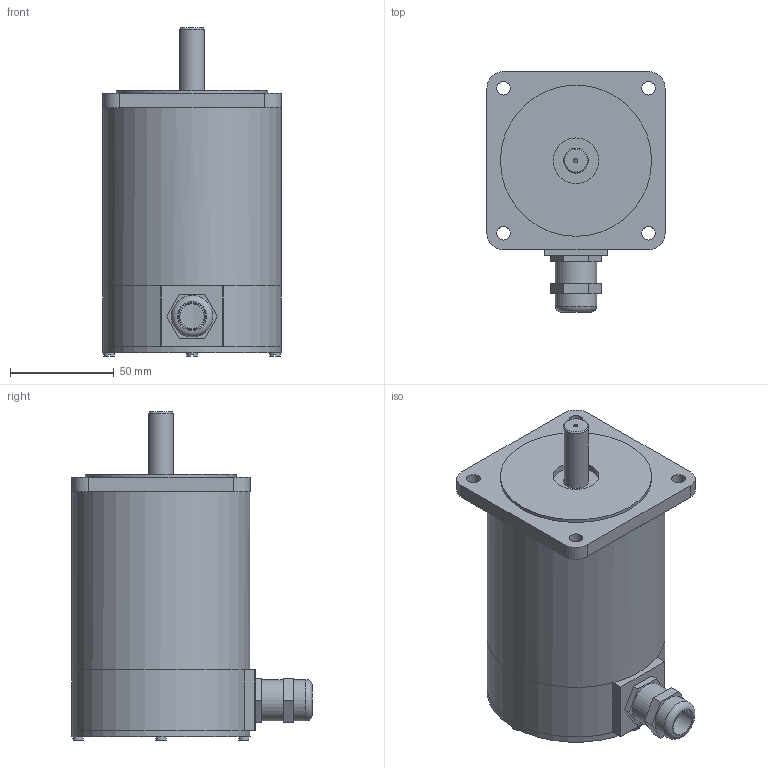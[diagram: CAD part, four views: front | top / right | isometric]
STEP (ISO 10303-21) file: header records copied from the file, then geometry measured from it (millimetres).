
FILE_DESCRIPTION((''),'2;1');
FILE_NAME('C:\Users\Reinhard\Documents\Inventor\Testschrittmotor\SM88\SM88.2-KV.stp','2012-11-12T20:27:23',('Reinhard'),(''),'Autodesk Inventor 2012','Autodesk Inventor 2012','');
FILE_SCHEMA(('CONFIG_CONTROL_DESIGN'));
Length unit declared in the file: millimetre
Products named in the file (1): SM88
Bounding box: 86 x 115.99 x 158.4 mm (x, y, z)
Volume: 159482.3 mm3; surface area: 95609.6 mm2
Topology: 2 solids, 2 shells, 105 faces, 233 edges, 148 vertices
Faces by surface type: plane 64, cylinder 35, cone 3, sphere 2, torus 1
Full cylindrical faces by diameter (mm): 2 x1, 5 x4, 6.6 x4, 12 x2, 13 x2, 15 x1, 18.376 x1, 20 x3, 22 x1, 73 x1, 78 x2, 82 x1, 86 x2
Entity records: 2775 total; most frequent: CARTESIAN_POINT 496, DIRECTION 491, ORIENTED_EDGE 390, EDGE_CURVE 195, AXIS2_PLACEMENT_3D 194, EDGE_LOOP 162, VERTEX_POINT 139, FACE_OUTER_BOUND 105
